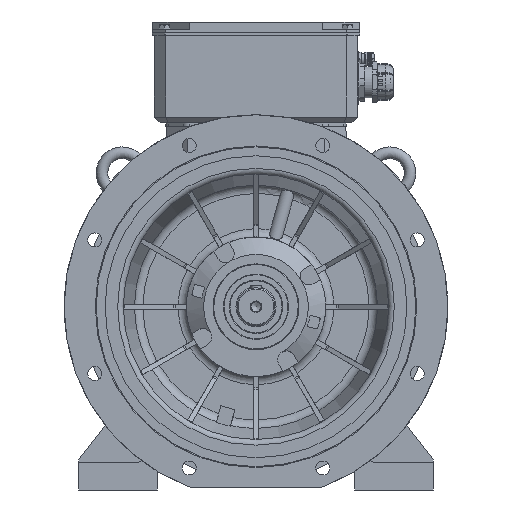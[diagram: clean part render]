
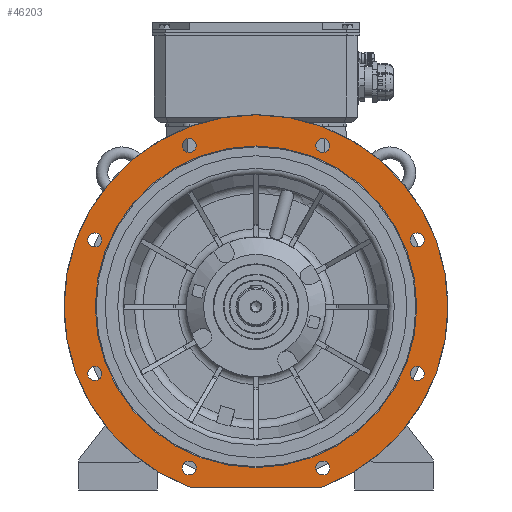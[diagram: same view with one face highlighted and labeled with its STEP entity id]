
A CAD part, front view. The second image highlights one B-rep face of the part: STEP entity #46203.
In plain terms, the highlighted planar face has unit normal (0, -1, 0).
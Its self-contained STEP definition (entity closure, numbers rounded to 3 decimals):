
#1772=PLANE('',#48752);
#2325=CIRCLE('',#47513,3.);
#2326=CIRCLE('',#47515,3.);
#2327=CIRCLE('',#47517,330.);
#2696=CIRCLE('',#48431,12.);
#2698=CIRCLE('',#48434,12.);
#2700=CIRCLE('',#48437,12.);
#2702=CIRCLE('',#48440,12.);
#2704=CIRCLE('',#48443,12.);
#2706=CIRCLE('',#48446,12.);
#2708=CIRCLE('',#48449,12.);
#2710=CIRCLE('',#48452,12.);
#2819=CIRCLE('',#48753,276.4);
#8408=ORIENTED_EDGE('',*,*,#14508,.T.);
#8409=ORIENTED_EDGE('',*,*,#16376,.F.);
#8410=ORIENTED_EDGE('',*,*,#14505,.T.);
#8411=ORIENTED_EDGE('',*,*,#14511,.F.);
#8412=ORIENTED_EDGE('',*,*,#16160,.F.);
#8413=ORIENTED_EDGE('',*,*,#16162,.F.);
#8414=ORIENTED_EDGE('',*,*,#16164,.F.);
#8415=ORIENTED_EDGE('',*,*,#16166,.F.);
#8416=ORIENTED_EDGE('',*,*,#16168,.F.);
#8417=ORIENTED_EDGE('',*,*,#16170,.F.);
#8418=ORIENTED_EDGE('',*,*,#16172,.F.);
#8419=ORIENTED_EDGE('',*,*,#16174,.F.);
#8420=ORIENTED_EDGE('',*,*,#16644,.F.);
#14505=EDGE_CURVE('',#19569,#19570,#2325,.F.);
#14508=EDGE_CURVE('',#19571,#19572,#2326,.F.);
#14511=EDGE_CURVE('',#19571,#19570,#2327,.T.);
#16160=EDGE_CURVE('',#20707,#20707,#2696,.F.);
#16162=EDGE_CURVE('',#20709,#20709,#2698,.F.);
#16164=EDGE_CURVE('',#20711,#20711,#2700,.F.);
#16166=EDGE_CURVE('',#20713,#20713,#2702,.F.);
#16168=EDGE_CURVE('',#20715,#20715,#2704,.F.);
#16170=EDGE_CURVE('',#20717,#20717,#2706,.F.);
#16172=EDGE_CURVE('',#20719,#20719,#2708,.F.);
#16174=EDGE_CURVE('',#20721,#20721,#2710,.F.);
#16376=EDGE_CURVE('',#19569,#19572,#24158,.T.);
#16644=EDGE_CURVE('',#21014,#21014,#2819,.F.);
#19569=VERTEX_POINT('',#62038);
#19570=VERTEX_POINT('',#62039);
#19571=VERTEX_POINT('',#62044);
#19572=VERTEX_POINT('',#62045);
#20707=VERTEX_POINT('',#69575);
#20709=VERTEX_POINT('',#69580);
#20711=VERTEX_POINT('',#69585);
#20713=VERTEX_POINT('',#69590);
#20715=VERTEX_POINT('',#69595);
#20717=VERTEX_POINT('',#69600);
#20719=VERTEX_POINT('',#69605);
#20721=VERTEX_POINT('',#69610);
#21014=VERTEX_POINT('',#71029);
#24158=LINE('',#70096,#26822);
#26822=VECTOR('',#54758,1000.);
#28933=EDGE_LOOP('',(#8408,#8409,#8410,#8411));
#28934=EDGE_LOOP('',(#8412));
#28935=EDGE_LOOP('',(#8413));
#28936=EDGE_LOOP('',(#8414));
#28937=EDGE_LOOP('',(#8415));
#28938=EDGE_LOOP('',(#8416));
#28939=EDGE_LOOP('',(#8417));
#28940=EDGE_LOOP('',(#8418));
#28941=EDGE_LOOP('',(#8419));
#28942=EDGE_LOOP('',(#8420));
#31115=FACE_BOUND('',#28933,.T.);
#31116=FACE_BOUND('',#28934,.T.);
#31117=FACE_BOUND('',#28935,.T.);
#31118=FACE_BOUND('',#28936,.T.);
#31119=FACE_BOUND('',#28937,.T.);
#31120=FACE_BOUND('',#28938,.T.);
#31121=FACE_BOUND('',#28939,.T.);
#31122=FACE_BOUND('',#28940,.T.);
#31123=FACE_BOUND('',#28941,.T.);
#31124=FACE_BOUND('',#28942,.T.);
#46203=ADVANCED_FACE('',(#31115,#31116,#31117,#31118,#31119,#31120,#31121,
#31122,#31123,#31124),#1772,.F.);
#47513=AXIS2_PLACEMENT_3D('',#62037,#51423,#51424);
#47515=AXIS2_PLACEMENT_3D('',#62043,#51429,#51430);
#47517=AXIS2_PLACEMENT_3D('',#62049,#51435,#51436);
#48431=AXIS2_PLACEMENT_3D('',#69574,#54358,#54359);
#48434=AXIS2_PLACEMENT_3D('',#69579,#54364,#54365);
#48437=AXIS2_PLACEMENT_3D('',#69584,#54370,#54371);
#48440=AXIS2_PLACEMENT_3D('',#69589,#54376,#54377);
#48443=AXIS2_PLACEMENT_3D('',#69594,#54382,#54383);
#48446=AXIS2_PLACEMENT_3D('',#69599,#54388,#54389);
#48449=AXIS2_PLACEMENT_3D('',#69604,#54394,#54395);
#48452=AXIS2_PLACEMENT_3D('',#69609,#54400,#54401);
#48752=AXIS2_PLACEMENT_3D('',#71027,#55239,#55240);
#48753=AXIS2_PLACEMENT_3D('',#71028,#55241,#55242);
#51423=DIRECTION('',(0.,1.,0.));
#51424=DIRECTION('',(0.,0.,1.));
#51429=DIRECTION('',(0.,1.,0.));
#51430=DIRECTION('',(0.,0.,1.));
#51435=DIRECTION('',(0.,1.,0.));
#51436=DIRECTION('',(0.,0.,1.));
#54358=DIRECTION('',(0.,1.,0.));
#54359=DIRECTION('',(0.,0.,1.));
#54364=DIRECTION('',(0.,1.,0.));
#54365=DIRECTION('',(0.,0.,1.));
#54370=DIRECTION('',(0.,1.,0.));
#54371=DIRECTION('',(0.,0.,1.));
#54376=DIRECTION('',(0.,1.,0.));
#54377=DIRECTION('',(0.,0.,1.));
#54382=DIRECTION('',(0.,1.,0.));
#54383=DIRECTION('',(0.,0.,1.));
#54388=DIRECTION('',(0.,1.,0.));
#54389=DIRECTION('',(0.,0.,1.));
#54394=DIRECTION('',(0.,1.,0.));
#54395=DIRECTION('',(0.,0.,1.));
#54400=DIRECTION('',(0.,1.,0.));
#54401=DIRECTION('',(0.,0.,1.));
#54758=DIRECTION('',(-1.,0.,0.));
#55239=DIRECTION('',(0.,1.,0.));
#55240=DIRECTION('',(1.,0.,0.));
#55241=DIRECTION('',(0.,1.,0.));
#55242=DIRECTION('',(0.,0.,1.));
#62037=CARTESIAN_POINT('',(112.606,-104.997,-307.));
#62038=CARTESIAN_POINT('',(112.606,-104.997,-310.));
#62039=CARTESIAN_POINT('',(113.639,-104.997,-309.817));
#62043=CARTESIAN_POINT('',(-112.606,-104.997,-307.));
#62044=CARTESIAN_POINT('',(-113.639,-104.997,-309.817));
#62045=CARTESIAN_POINT('',(-112.606,-104.997,-310.));
#62049=CARTESIAN_POINT('',(0.,-104.997,0.));
#69574=CARTESIAN_POINT('',(-277.164,-104.997,114.805));
#69575=CARTESIAN_POINT('',(-277.164,-104.997,126.805));
#69579=CARTESIAN_POINT('',(-277.164,-104.997,-114.805));
#69580=CARTESIAN_POINT('',(-277.164,-104.997,-102.805));
#69584=CARTESIAN_POINT('',(-114.805,-104.997,-277.164));
#69585=CARTESIAN_POINT('',(-114.805,-104.997,-265.164));
#69589=CARTESIAN_POINT('',(114.805,-104.997,-277.164));
#69590=CARTESIAN_POINT('',(114.805,-104.997,-265.164));
#69594=CARTESIAN_POINT('',(277.164,-104.997,-114.805));
#69595=CARTESIAN_POINT('',(277.164,-104.997,-102.805));
#69599=CARTESIAN_POINT('',(277.164,-104.997,114.805));
#69600=CARTESIAN_POINT('',(277.164,-104.997,126.805));
#69604=CARTESIAN_POINT('',(114.805,-104.997,277.164));
#69605=CARTESIAN_POINT('',(114.805,-104.997,289.164));
#69609=CARTESIAN_POINT('',(-114.805,-104.997,277.164));
#69610=CARTESIAN_POINT('',(-114.805,-104.997,289.164));
#70096=CARTESIAN_POINT('',(-113.137,-104.997,-310.));
#71027=CARTESIAN_POINT('',(0.,-104.997,276.4));
#71028=CARTESIAN_POINT('',(0.,-104.997,0.));
#71029=CARTESIAN_POINT('',(0.,-104.997,276.4));
